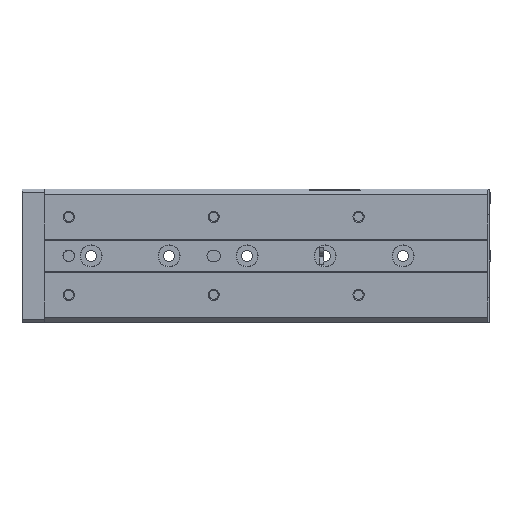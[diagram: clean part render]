
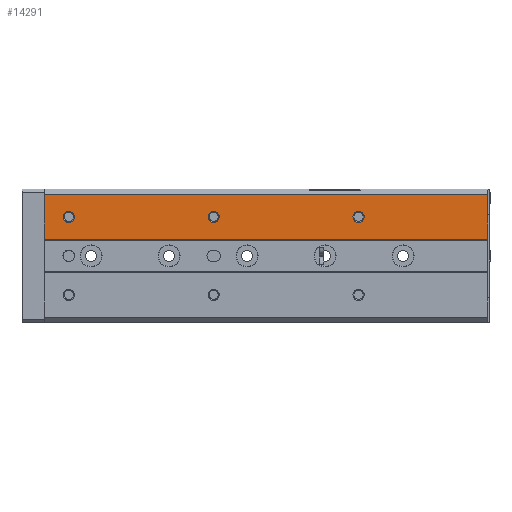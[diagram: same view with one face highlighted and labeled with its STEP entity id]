
A CAD part, top view. The second image highlights one B-rep face of the part: STEP entity #14291.
In plain terms, the highlighted planar face has unit normal (0, 0, 1).
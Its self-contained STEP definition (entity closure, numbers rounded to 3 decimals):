
#127 = AXIS2_PLACEMENT_3D ( 'NONE', #16587, #13849, #6016 ) ;
#257 = EDGE_CURVE ( 'NONE', #7282, #13916, #2260, .T. ) ;
#471 = AXIS2_PLACEMENT_3D ( 'NONE', #11109, #2061, #4633 ) ;
#543 = CARTESIAN_POINT ( 'NONE',  ( 9., 15., 28. ) ) ;
#561 = ORIENTED_EDGE ( 'NONE', *, *, #11039, .T. ) ;
#1221 = FACE_BOUND ( 'NONE', #4684, .T. ) ;
#1246 = EDGE_CURVE ( 'NONE', #4463, #15024, #9920, .T. ) ;
#1594 = VERTEX_POINT ( 'NONE', #16398 ) ;
#1614 = DIRECTION ( 'NONE',  ( -1., 0., 0. ) ) ;
#2061 = DIRECTION ( 'NONE',  ( 0., 0., 1. ) ) ;
#2075 = VERTEX_POINT ( 'NONE', #15749 ) ;
#2209 = AXIS2_PLACEMENT_3D ( 'NONE', #6467, #17052, #14308 ) ;
#2260 = CIRCLE ( 'NONE', #2209, 2.5 ) ;
#2466 = FACE_BOUND ( 'NONE', #3939, .T. ) ;
#2715 = DIRECTION ( 'NONE',  ( 0., 0., 1. ) ) ;
#3042 = CARTESIAN_POINT ( 'NONE',  ( 74., 17.5, 28. ) ) ;
#3081 = CARTESIAN_POINT ( 'NONE',  ( 76.5, 17.5, 28. ) ) ;
#3110 = CIRCLE ( 'NONE', #16301, 2.5 ) ;
#3139 = EDGE_CURVE ( 'NONE', #6436, #8746, #9862, .T. ) ;
#3218 = CARTESIAN_POINT ( 'NONE',  ( 197., 0., 28. ) ) ;
#3320 = DIRECTION ( 'NONE',  ( 0., 1., 0. ) ) ;
#3323 = FACE_OUTER_BOUND ( 'NONE', #12240, .T. ) ;
#3939 = EDGE_LOOP ( 'NONE', ( #8304, #16156 ) ) ;
#3991 = CARTESIAN_POINT ( 'NONE',  ( 74., 17.5, 28. ) ) ;
#4016 = VECTOR ( 'NONE', #3320, 1000. ) ;
#4056 = EDGE_LOOP ( 'NONE', ( #13040, #17062 ) ) ;
#4150 = CARTESIAN_POINT ( 'NONE',  ( 71.5, 17.5, 28. ) ) ;
#4463 = VERTEX_POINT ( 'NONE', #13003 ) ;
#4633 = DIRECTION ( 'NONE',  ( 0., -1., 0. ) ) ;
#4684 = EDGE_LOOP ( 'NONE', ( #13841, #11261 ) ) ;
#4747 = VERTEX_POINT ( 'NONE', #13436 ) ;
#4786 = CARTESIAN_POINT ( 'NONE',  ( 139., 20., 28. ) ) ;
#4918 = CARTESIAN_POINT ( 'NONE',  ( 139., 15., 28. ) ) ;
#4979 = VERTEX_POINT ( 'NONE', #543 ) ;
#5268 = CIRCLE ( 'NONE', #127, 2.5 ) ;
#5321 = LINE ( 'NONE', #17229, #15916 ) ;
#6016 = DIRECTION ( 'NONE',  ( 0., -1., 0. ) ) ;
#6240 = CIRCLE ( 'NONE', #8571, 2.5 ) ;
#6289 = VECTOR ( 'NONE', #16417, 1000. ) ;
#6436 = VERTEX_POINT ( 'NONE', #3081 ) ;
#6467 = CARTESIAN_POINT ( 'NONE',  ( 139., 17.5, 28. ) ) ;
#6578 = EDGE_CURVE ( 'NONE', #1594, #2075, #11067, .T. ) ;
#6785 = CARTESIAN_POINT ( 'NONE',  ( 9., 17.5, 28. ) ) ;
#7095 = AXIS2_PLACEMENT_3D ( 'NONE', #17033, #13475, #9569 ) ;
#7175 = DIRECTION ( 'NONE',  ( 0., -1., 0. ) ) ;
#7282 = VERTEX_POINT ( 'NONE', #4918 ) ;
#8132 = CARTESIAN_POINT ( 'NONE',  ( 197., 7.51, 28. ) ) ;
#8248 = CARTESIAN_POINT ( 'NONE',  ( 197., 7.51, 28. ) ) ;
#8304 = ORIENTED_EDGE ( 'NONE', *, *, #3139, .F. ) ;
#8571 = AXIS2_PLACEMENT_3D ( 'NONE', #6785, #12213, #16208 ) ;
#8746 = VERTEX_POINT ( 'NONE', #4150 ) ;
#9062 = ORIENTED_EDGE ( 'NONE', *, *, #6578, .F. ) ;
#9569 = DIRECTION ( 'NONE',  ( 0., 1., 0. ) ) ;
#9862 = CIRCLE ( 'NONE', #12083, 2.5 ) ;
#9920 = LINE ( 'NONE', #3218, #11372 ) ;
#11039 = EDGE_CURVE ( 'NONE', #4463, #2075, #5321, .T. ) ;
#11067 = LINE ( 'NONE', #16769, #4016 ) ;
#11109 = CARTESIAN_POINT ( 'NONE',  ( 139., 17.5, 28. ) ) ;
#11261 = ORIENTED_EDGE ( 'NONE', *, *, #16738, .F. ) ;
#11372 = VECTOR ( 'NONE', #7175, 1000. ) ;
#11811 = PLANE ( 'NONE',  #7095 ) ;
#11909 = CIRCLE ( 'NONE', #471, 2.5 ) ;
#12014 = DIRECTION ( 'NONE',  ( 1., 0., 0. ) ) ;
#12061 = EDGE_CURVE ( 'NONE', #15024, #1594, #17101, .T. ) ;
#12083 = AXIS2_PLACEMENT_3D ( 'NONE', #3042, #16165, #16112 ) ;
#12213 = DIRECTION ( 'NONE',  ( 0., 0., 1. ) ) ;
#12240 = EDGE_LOOP ( 'NONE', ( #13747, #15260, #561, #9062 ) ) ;
#13003 = CARTESIAN_POINT ( 'NONE',  ( 197., 27.49, 28. ) ) ;
#13040 = ORIENTED_EDGE ( 'NONE', *, *, #16715, .F. ) ;
#13161 = EDGE_CURVE ( 'NONE', #4747, #4979, #6240, .T. ) ;
#13436 = CARTESIAN_POINT ( 'NONE',  ( 9., 20., 28. ) ) ;
#13475 = DIRECTION ( 'NONE',  ( 0., 0., -1. ) ) ;
#13630 = EDGE_CURVE ( 'NONE', #8746, #6436, #3110, .T. ) ;
#13747 = ORIENTED_EDGE ( 'NONE', *, *, #12061, .F. ) ;
#13841 = ORIENTED_EDGE ( 'NONE', *, *, #257, .F. ) ;
#13849 = DIRECTION ( 'NONE',  ( 0., 0., 1. ) ) ;
#13916 = VERTEX_POINT ( 'NONE', #4786 ) ;
#14291 = ADVANCED_FACE ( 'NONE', ( #3323, #16191, #2466, #1221 ), #11811, .F. ) ;
#14308 = DIRECTION ( 'NONE',  ( 0., -1., 0. ) ) ;
#15024 = VERTEX_POINT ( 'NONE', #8248 ) ;
#15260 = ORIENTED_EDGE ( 'NONE', *, *, #1246, .F. ) ;
#15749 = CARTESIAN_POINT ( 'NONE',  ( -2., 27.49, 28. ) ) ;
#15916 = VECTOR ( 'NONE', #1614, 1000. ) ;
#16112 = DIRECTION ( 'NONE',  ( 1., 0., 0. ) ) ;
#16156 = ORIENTED_EDGE ( 'NONE', *, *, #13630, .F. ) ;
#16165 = DIRECTION ( 'NONE',  ( 0., 0., 1. ) ) ;
#16191 = FACE_BOUND ( 'NONE', #4056, .T. ) ;
#16208 = DIRECTION ( 'NONE',  ( 0., -1., 0. ) ) ;
#16301 = AXIS2_PLACEMENT_3D ( 'NONE', #3991, #2715, #12014 ) ;
#16398 = CARTESIAN_POINT ( 'NONE',  ( -2., 7.51, 28. ) ) ;
#16417 = DIRECTION ( 'NONE',  ( -1., 0., 0. ) ) ;
#16587 = CARTESIAN_POINT ( 'NONE',  ( 9., 17.5, 28. ) ) ;
#16715 = EDGE_CURVE ( 'NONE', #4979, #4747, #5268, .T. ) ;
#16738 = EDGE_CURVE ( 'NONE', #13916, #7282, #11909, .T. ) ;
#16769 = CARTESIAN_POINT ( 'NONE',  ( -2., 27.49, 28. ) ) ;
#17033 = CARTESIAN_POINT ( 'NONE',  ( 197., 27.49, 28. ) ) ;
#17052 = DIRECTION ( 'NONE',  ( 0., 0., 1. ) ) ;
#17062 = ORIENTED_EDGE ( 'NONE', *, *, #13161, .F. ) ;
#17101 = LINE ( 'NONE', #8132, #6289 ) ;
#17229 = CARTESIAN_POINT ( 'NONE',  ( 197., 27.49, 28. ) ) ;
